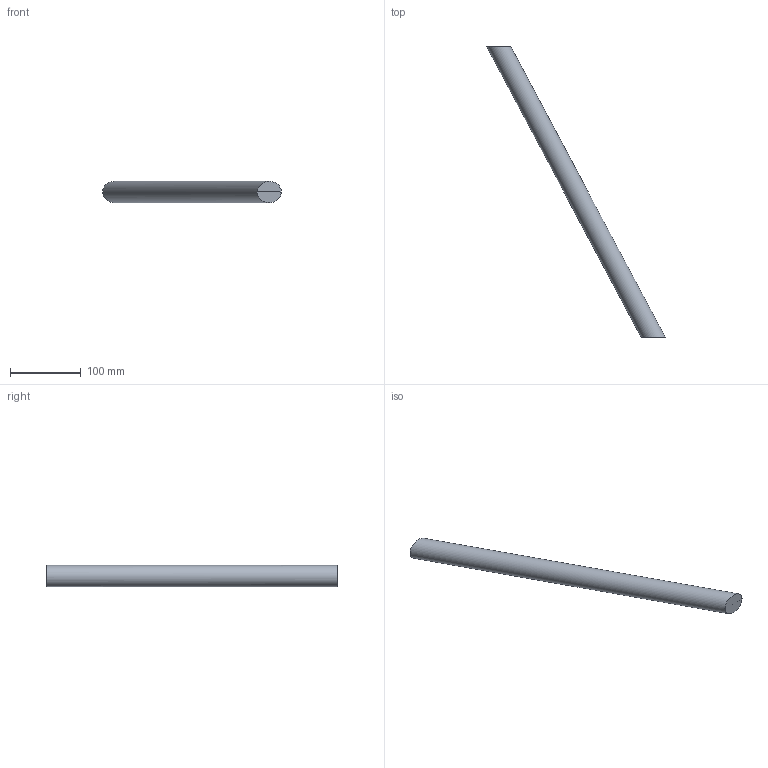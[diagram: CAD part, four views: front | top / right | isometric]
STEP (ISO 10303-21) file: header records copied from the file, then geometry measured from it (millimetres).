
FILE_DESCRIPTION(/* description */ ('C TOWER MAST SECTION 200 CM'),/* implementation_level */ '2;1');
FILE_NAME(/* name */ 'M:\Symbolen_NIEUW\STP\52-er truss\C52T\C52T-L200_111810005.stp',/* time_stamp */ '2017-12-15T15:35:12+01:00',/* author */ ('Kees'),/* organization */ (''),/* preprocessor_version */ 'ST-DEVELOPER v16.13',/* originating_system */ 'Autodesk Inventor 2018',/* authorisation */ '');
FILE_SCHEMA (('AUTOMOTIVE_DESIGN { 1 0 10303 214 3 1 1 }'));
Length unit declared in the file: millimetre
Products named in the file (1): 160009650
Bounding box: 251.98 x 410 x 29.98 mm (x, y, z)
Volume: 328232.3 mm3; surface area: 45365.4 mm2
Topology: 1 solids, 1 shells, 5 faces, 7 edges, 4 vertices
Faces by surface type: plane 4, cylinder 1
Full cylindrical faces by diameter (mm): 30 x1
Entity records: 163 total; most frequent: DIRECTION 22, CARTESIAN_POINT 16, ORIENTED_EDGE 12, AXIS2_PLACEMENT_3D 10, EDGE_LOOP 6, EDGE_CURVE 6, STYLED_ITEM 6, FACE_OUTER_BOUND 5
